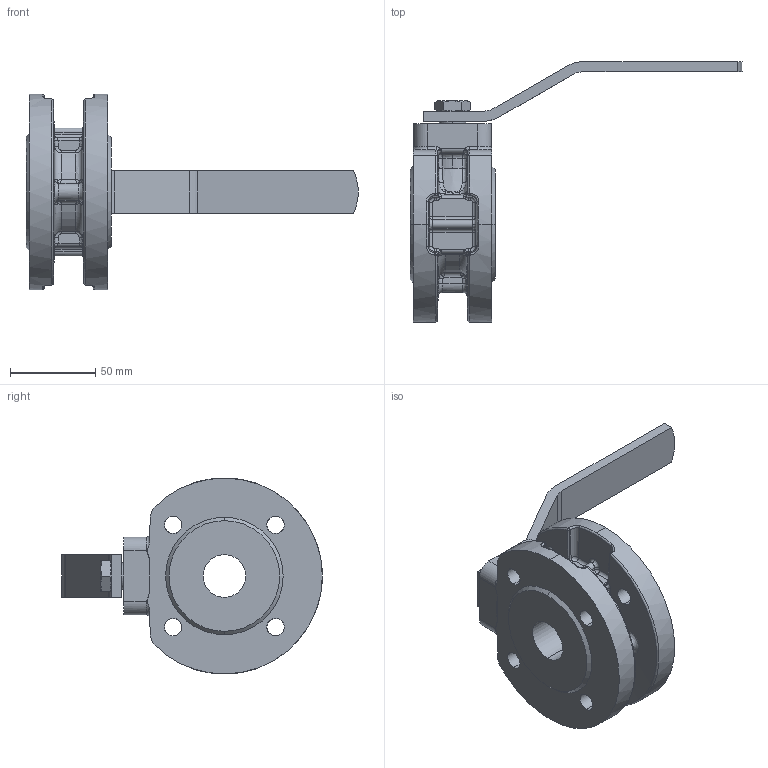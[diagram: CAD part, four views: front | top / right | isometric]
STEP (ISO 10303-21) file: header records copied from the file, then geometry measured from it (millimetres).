
FILE_DESCRIPTION (( 'STEP AP203' ), '1' );
FILE_NAME ('B1.000I025L16CN_1.STEP', '2012-06-08T12:00:28', ( ' ' ), ( '' ), 'SwSTEP 2.0', 'SolidWorks 2009', '' );
FILE_SCHEMA (( 'CONFIG_CONTROL_DESIGN' ));
Length unit declared in the file: millimetre
Products named in the file (1): B1.000I025L16CN_1
Bounding box: 194.89 x 153 x 115 mm (x, y, z)
Volume: 368006.9 mm3; surface area: 67517.2 mm2
Topology: 1 solids, 1 shells, 395 faces, 941 edges, 547 vertices
Faces by surface type: bspline 132, cylinder 117, plane 63, cone 41, torus 22, sphere 20
Entity records: 17165 total; most frequent: CARTESIAN_POINT 9009, ORIENTED_EDGE 1858, DIRECTION 1486, EDGE_CURVE 929, AXIS2_PLACEMENT_3D 620, VERTEX_POINT 547, EDGE_LOOP 424, FACE_OUTER_BOUND 395
